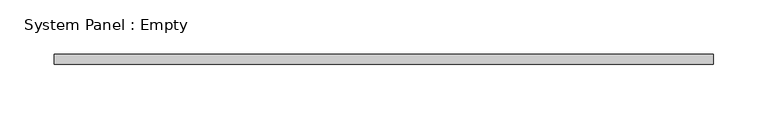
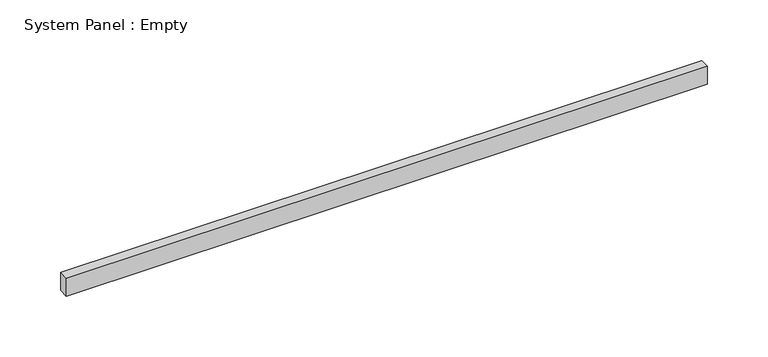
"""IFC4 building model written with IfcOpenShell, lengths in millimetres: plate geometry, System Panel : Empty."""

from ifc_helpers import new_model, si_unit, origin, origin_with_axes, place, context, project, spatial, polyline, outline, extrude, source, transform, mapped, element, save


def system_panel_empty_e91cd120(model_context):
    return source(origin(), model_context, "Body", "SweptSolid", [
        extrude(outline(polyline([(304.8000002, -4.7625), (-304.8000002, -4.7625), (-304.8000002, 4.7625), (304.8000002, 4.7625), (304.8000002, -4.7625)])), origin_with_axes(), (0.0, 0.0, 1.0), 18.0737918),
    ])


if __name__ == "__main__":
    model = new_model("IFC4")
    model_context = context("Model", 3, world=origin())
    ifc_project = project(units=[si_unit("LENGTHUNIT", "METRE", prefix="MILLI")], contexts=[model_context])
    site = spatial("IfcSite", under=ifc_project)
    building = spatial("IfcBuilding", under=site)
    placement = place(None, origin())
    system_panel_empty_shape = system_panel_empty_e91cd120(model_context)
    element("IfcPlate", 1, ObjectType="System Panel : Empty", at=placement, inside=building, context=model_context, shape_type="MappedRepresentation", body=[
        mapped(system_panel_empty_shape, transform((0.0, 0.0, 0.0), x_axis=(1.0, 0.0, 0.0), y_axis=(0.0, 1.0, 0.0), z_axis=(0.0, 0.0, 1.0))),
    ])
    save(model, "model.ifc")
